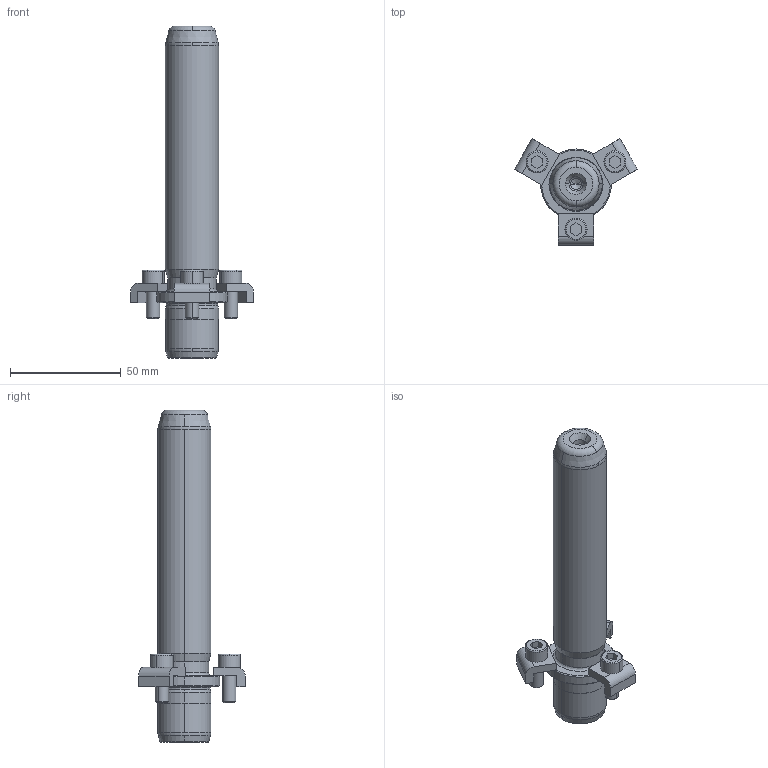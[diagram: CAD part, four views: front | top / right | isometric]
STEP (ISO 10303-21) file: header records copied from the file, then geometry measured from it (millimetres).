
FILE_DESCRIPTION((''),'2;1');
FILE_NAME('P21_024_125.stp','2008-12-23T09:27:07',(''),(''),'Mechanical Desktop 2009','Mechanical Desktop 2009',', , ');
FILE_SCHEMA(('CONFIG_CONTROL_DESIGN'));
Length unit declared in the file: millimetre
Products named in the file (2): Product; blmdl1
Assembly tree (1 placements, depth 2):
  Product
    blmdl1
Bounding box: 55.58 x 48.13 x 150 mm (x, y, z)
Volume: 72512.6 mm3; surface area: 17965.7 mm2
Topology: 7 solids, 7 shells, 163 faces, 417 edges, 269 vertices
Faces by surface type: plane 59, cylinder 44, cone 32, torus 14, bspline 14
Entity records: 5679 total; most frequent: CARTESIAN_POINT 1511, DIRECTION 914, ORIENTED_EDGE 826, EDGE_CURVE 413, AXIS2_PLACEMENT_3D 362, VERTEX_POINT 269, CIRCLE 211, VECTOR 190
